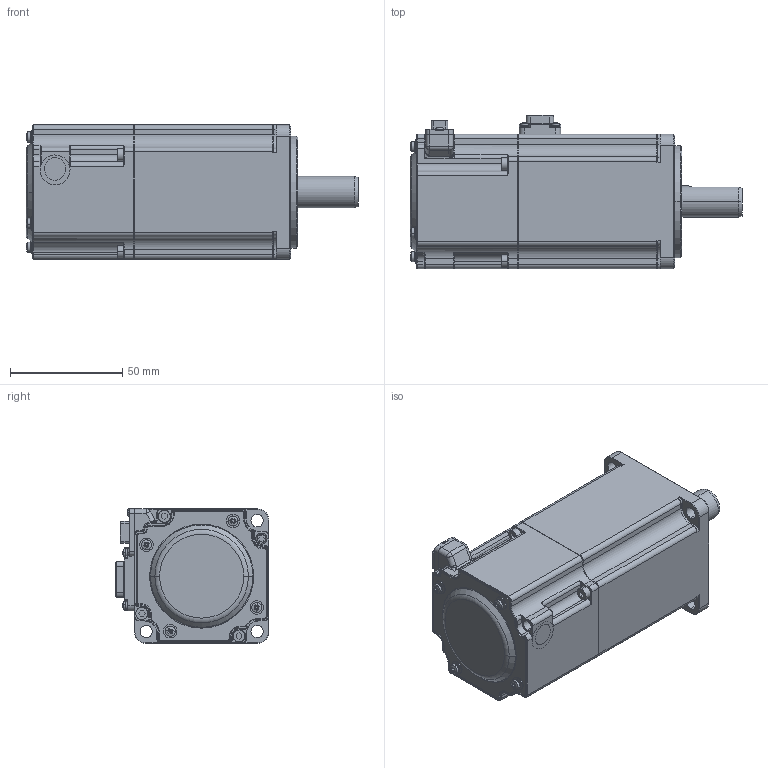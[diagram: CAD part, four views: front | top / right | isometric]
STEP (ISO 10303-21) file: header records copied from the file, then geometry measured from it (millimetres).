
FILE_DESCRIPTION (( 'STEP AP214' ), '1' );
FILE_NAME ('400W刹车直插电机.STEP', '2024-10-13T07:40:00', ( 'Windows 用户' ), ( 'Organization' ), 'SwSTEP 2.0', 'SolidWorks 2021', '' );
FILE_SCHEMA (( 'AUTOMOTIVE_DESIGN' ));
Length unit declared in the file: millimetre
Products named in the file (1): 400W价陬眻脣萇儂
Bounding box: 148.2 x 68.6 x 60.1 mm (x, y, z)
Surface area: 41660.1 mm2 (no closed solid volume)
Topology: 0 solids, 51 shells, 1144 faces, 3646 edges, 2471 vertices
Faces by surface type: plane 514, cylinder 368, cone 113, torus 104, bspline 27, sphere 18
Entity records: 54024 total; most frequent: CARTESIAN_POINT 9718, DIRECTION 6929, ORIENTED_EDGE 5868, EDGE_CURVE 3625, AXIS2_PLACEMENT_3D 2540, VERTEX_POINT 2471, VECTOR 1849, LINE 1849
